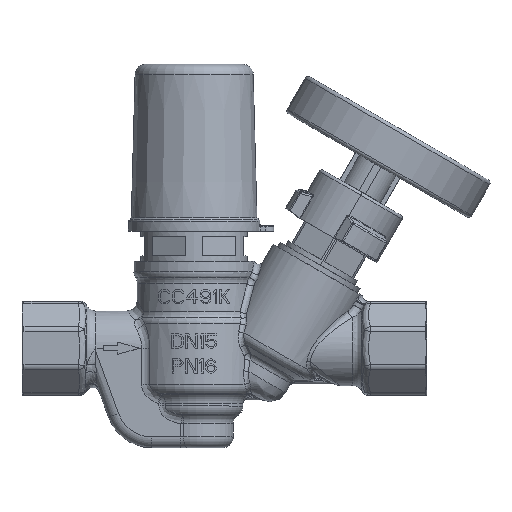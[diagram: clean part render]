
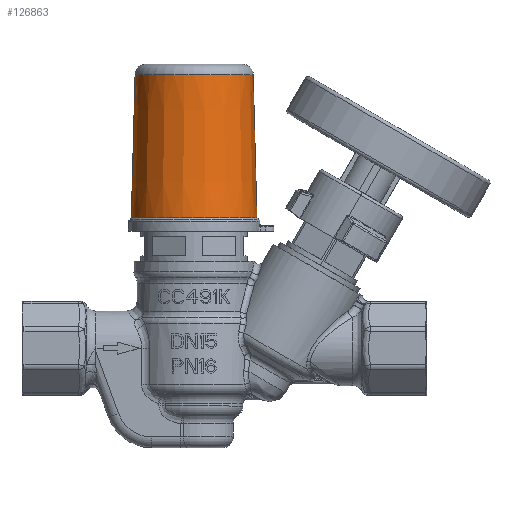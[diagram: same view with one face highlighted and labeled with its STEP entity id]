
A CAD part, top view. The second image highlights one B-rep face of the part: STEP entity #126863.
In plain terms, the highlighted conical face has half-angle 1.5 degrees and reference radius 17.174 mm.
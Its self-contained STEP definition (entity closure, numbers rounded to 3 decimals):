
#125476=DIRECTION('',(-0.026,1.,0.));
#125477=VECTOR('',#125476,40.335);
#125478=CARTESIAN_POINT('',(17.702,3.758,0.));
#125479=LINE('',#125478,#125477);
#125485=DIRECTION('',(0.026,1.,0.));
#125486=VECTOR('',#125485,40.335);
#125487=CARTESIAN_POINT('',(-17.702,3.758,0.));
#125488=LINE('',#125487,#125486);
#125517=CARTESIAN_POINT('',(0.,3.758,0.));
#125518=DIRECTION('',(0.,-1.,0.));
#125519=DIRECTION('',(1.,0.,0.));
#125520=AXIS2_PLACEMENT_3D('',#125517,#125518,#125519);
#125522=CARTESIAN_POINT('',(0.,44.079,0.));
#125523=DIRECTION('',(0.,1.,0.));
#125524=DIRECTION('',(-1.,0.,0.));
#125525=AXIS2_PLACEMENT_3D('',#125522,#125523,#125524);
#126528=CARTESIAN_POINT('',(-16.646,44.079,0.));
#126529=CARTESIAN_POINT('',(16.646,44.079,0.));
#126530=VERTEX_POINT('',#126528);
#126531=VERTEX_POINT('',#126529);
#126718=CARTESIAN_POINT('',(17.702,3.758,0.));
#126719=CARTESIAN_POINT('',(-17.702,3.758,0.));
#126720=VERTEX_POINT('',#126718);
#126721=VERTEX_POINT('',#126719);
#126852=CARTESIAN_POINT('',(0.,23.918,0.));
#126853=DIRECTION('',(0.,-1.,0.));
#126854=DIRECTION('',(-1.,0.,0.));
#126855=AXIS2_PLACEMENT_3D('',#126852,#126853,#126854);
#126856=CONICAL_SURFACE('',#126855,17.174,1.5);
#126857=ORIENTED_EDGE('',*,*,#126846,.T.);
#126858=ORIENTED_EDGE('',*,*,#126790,.T.);
#126859=ORIENTED_EDGE('',*,*,#126760,.T.);
#126860=ORIENTED_EDGE('',*,*,#126787,.F.);
#126861=EDGE_LOOP('',(#126857,#126858,#126859,#126860));
#126862=FACE_OUTER_BOUND('',#126861,.F.);
#126863=ADVANCED_FACE('',(#126862),#126856,.T.);
#125521=CIRCLE('',#125520,17.702);
#125526=CIRCLE('',#125525,16.646);
#126760=EDGE_CURVE('',#126530,#126531,#125526,.T.);
#126787=EDGE_CURVE('',#126720,#126531,#125479,.T.);
#126790=EDGE_CURVE('',#126721,#126530,#125488,.T.);
#126846=EDGE_CURVE('',#126720,#126721,#125521,.T.);
